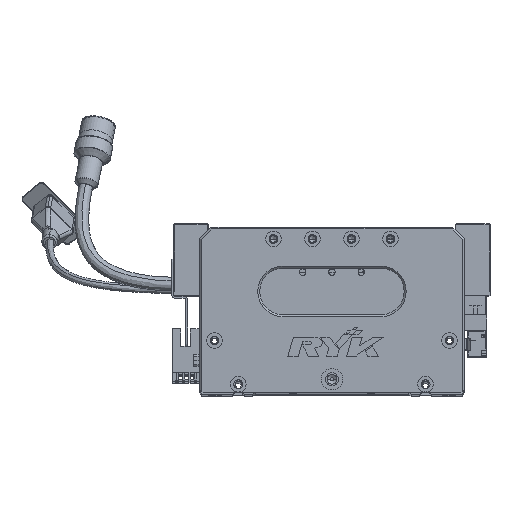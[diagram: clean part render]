
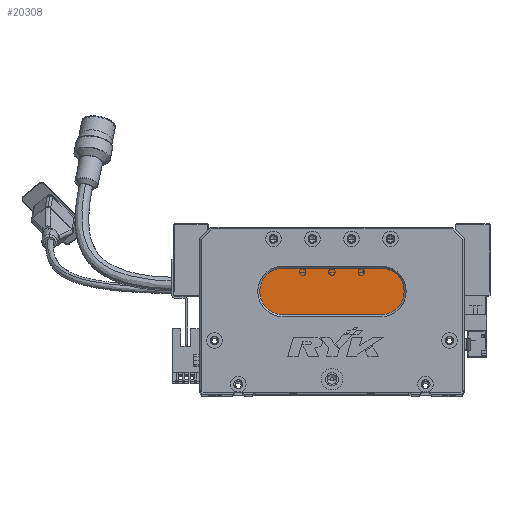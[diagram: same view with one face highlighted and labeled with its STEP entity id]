
A CAD part, top view. The second image highlights one B-rep face of the part: STEP entity #20308.
In plain terms, the highlighted planar face has unit normal (0, 0, 1) as drawn and (0, 0, -1) by its records, which use the part's own axes.
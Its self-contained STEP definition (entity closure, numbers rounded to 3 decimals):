
#1016 = CARTESIAN_POINT ( 'NONE',  ( 93., 40., 13. ) ) ;
#5595 = VERTEX_POINT ( 'NONE', #20862 ) ;
#6170 = CARTESIAN_POINT ( 'NONE',  ( 43., 52., 13. ) ) ;
#7711 = CARTESIAN_POINT ( 'NONE',  ( 43., 40., 13. ) ) ;
#10932 = CARTESIAN_POINT ( 'NONE',  ( 43., 52., 13. ) ) ;
#14661 = FACE_OUTER_BOUND ( 'NONE', #32438, .T. ) ;
#15096 = DIRECTION ( 'NONE',  ( -1., 0., 0. ) ) ;
#15333 = ORIENTED_EDGE ( 'NONE', *, *, #46176, .T. ) ;
#17009 = LINE ( 'NONE', #28644, #55593 ) ;
#18982 = AXIS2_PLACEMENT_3D ( 'NONE', #51146, #26958, #15096 ) ;
#19463 = AXIS2_PLACEMENT_3D ( 'NONE', #6170, #30390, #72474 ) ;
#20308 = ADVANCED_FACE ( 'NONE', ( #14661 ), #21422, .T. ) ;
#20862 = CARTESIAN_POINT ( 'NONE',  ( 31., 52., 13. ) ) ;
#21422 = PLANE ( 'NONE',  #18982 ) ;
#21940 = EDGE_CURVE ( 'NONE', #46256, #66106, #17009, .T. ) ;
#23942 = CIRCLE ( 'NONE', #19463, 12. ) ;
#25245 = ORIENTED_EDGE ( 'NONE', *, *, #41348, .T. ) ;
#26958 = DIRECTION ( 'NONE',  ( 0., 0., -1. ) ) ;
#28644 = CARTESIAN_POINT ( 'NONE',  ( 93., 64., 13. ) ) ;
#28690 = CIRCLE ( 'NONE', #37140, 12. ) ;
#28842 = DIRECTION ( 'NONE',  ( 0., 0., -1. ) ) ;
#30390 = DIRECTION ( 'NONE',  ( 0., 0., -1. ) ) ;
#31655 = VERTEX_POINT ( 'NONE', #77266 ) ;
#32438 = EDGE_LOOP ( 'NONE', ( #42032, #15333, #25245, #59295, #62236 ) ) ;
#36894 = DIRECTION ( 'NONE',  ( -1., 0., 0. ) ) ;
#37140 = AXIS2_PLACEMENT_3D ( 'NONE', #10932, #28842, #59396 ) ;
#37684 = CARTESIAN_POINT ( 'NONE',  ( 93., 52., 13. ) ) ;
#39192 = LINE ( 'NONE', #1016, #63640 ) ;
#41348 = EDGE_CURVE ( 'NONE', #68538, #5595, #28690, .T. ) ;
#41560 = EDGE_CURVE ( 'NONE', #5595, #46256, #23942, .T. ) ;
#42032 = ORIENTED_EDGE ( 'NONE', *, *, #53524, .T. ) ;
#46176 = EDGE_CURVE ( 'NONE', #31655, #68538, #39192, .T. ) ;
#46256 = VERTEX_POINT ( 'NONE', #56846 ) ;
#51146 = CARTESIAN_POINT ( 'NONE',  ( 93., 52., 13. ) ) ;
#53524 = EDGE_CURVE ( 'NONE', #66106, #31655, #63938, .T. ) ;
#55593 = VECTOR ( 'NONE', #76766, 1000. ) ;
#56366 = DIRECTION ( 'NONE',  ( -1., 0., 0. ) ) ;
#56846 = CARTESIAN_POINT ( 'NONE',  ( 43., 64., 13. ) ) ;
#58276 = CARTESIAN_POINT ( 'NONE',  ( 93., 64., 13. ) ) ;
#59295 = ORIENTED_EDGE ( 'NONE', *, *, #41560, .T. ) ;
#59396 = DIRECTION ( 'NONE',  ( -1., 0., 0. ) ) ;
#62236 = ORIENTED_EDGE ( 'NONE', *, *, #21940, .T. ) ;
#63517 = AXIS2_PLACEMENT_3D ( 'NONE', #37684, #73974, #56366 ) ;
#63640 = VECTOR ( 'NONE', #36894, 1000. ) ;
#63938 = CIRCLE ( 'NONE', #63517, 12. ) ;
#66106 = VERTEX_POINT ( 'NONE', #58276 ) ;
#68538 = VERTEX_POINT ( 'NONE', #7711 ) ;
#72474 = DIRECTION ( 'NONE',  ( -1., 0., 0. ) ) ;
#73974 = DIRECTION ( 'NONE',  ( 0., 0., -1. ) ) ;
#76766 = DIRECTION ( 'NONE',  ( 1., 0., 0. ) ) ;
#77266 = CARTESIAN_POINT ( 'NONE',  ( 93., 40., 13. ) ) ;
